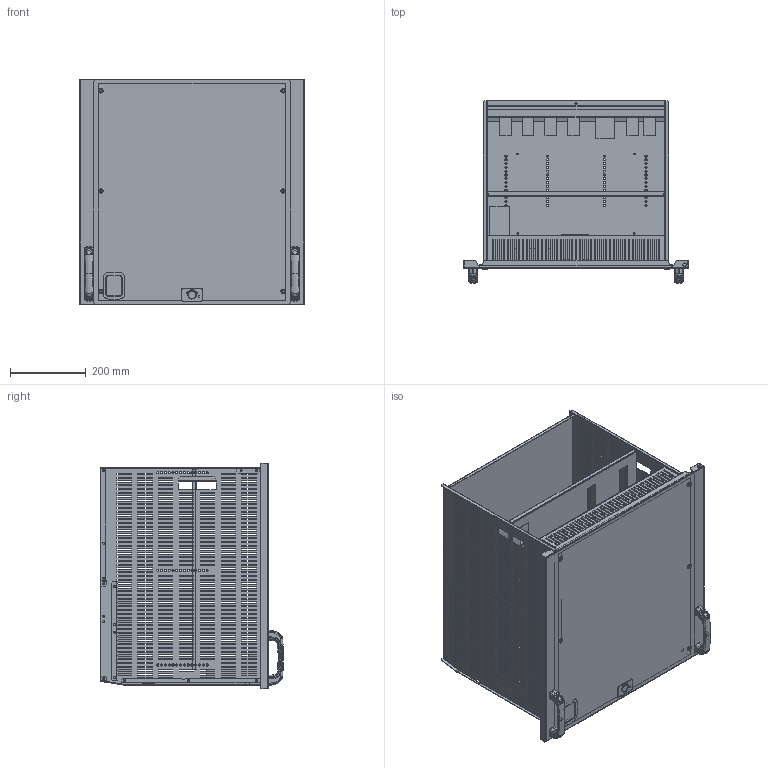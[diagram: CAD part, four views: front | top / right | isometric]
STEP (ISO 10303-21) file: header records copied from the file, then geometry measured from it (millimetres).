
FILE_DESCRIPTION(('CAx-IF Rec.Pracs.---Model Styling and Organization---1.2---2011-12-15','CAx-IF Rec.Pracs.---Geometric and Assembly Validation Properties---4.1---2014-06-16','CAx-IF Rec.Pracs.---PMI Polyline Presentation---2.0---2013-05-24'),'2;1');
FILE_NAME('12М1.stp','2021-05-05T11:50:38+03:00',(''),(''),'STEP Interface 4.4 by CT CoreTechnologie','3D_Evolution4.4 by CT CoreTechnologie','');
FILE_SCHEMA(('AUTOMOTIVE_DESIGN { 1 0 10303 214 1 1 1 1 }'));
Length unit declared in the file: millimetre
Products named in the file (33): 12Ì1; ñèëîâûå áîëüøèå òîêè; M6x20 GOST 17475-80 (DIN 965)_stright; 4.444.002(1); PR.DT477.120.01; PR.DT477.120.02-poprawa; RB.1499.00.00.0 ÑÁ_-05; RB.1499.00.01.0_-05; M6 art.MGR-MKO-0625_2¬¬; 4.444.002(2); RB.1505.00.00.0 ÑÁ_3; RB.1505.00.01.0_4; RB.1501.00.00.0 ÑÁ_-05; RB.1501.00.01.0_-05; RB.1511.00.00.0_-05; M6x12 (A1100001)_stright; R5M2W3M1BR22_R5MW31BR22; RB.1506.00.00.0_-07; RB.1507.00.00.0_-04; RB.1356.00.00.0; áëîêèðîâêà ìåõàíèçì; RB.1166.00.00.0 ÑÁ_-05; RB.1166.00.01.0_-05; RB.1166.00.02.0_¢ à 1; RB.1166.00.03.0_-00; PF 7x14 RAMmcc 2.0_121; AC00C061_AC00C061; Ì6õ12-A5100231_straight; PF 3.5x7 RAMmcc 2.0_00; ìåõàíèçì; 6-GOST 11371-78 (DIN 125) PA 6.6_6-GOST 11371-78 (DIN 125) PA 6.6; êíîïêà; ñèãíàëüíûå
Assembly tree (61 placements, depth 3):
  12Ì1
    ñèëîâûå áîëüøèå òîêè  x8
    M6x20 GOST 17475-80 (DIN 965)_stright  x4
    4.444.002(1)
      PR.DT477.120.01
      PR.DT477.120.02-poprawa  x2
    RB.1499.00.00.0 ÑÁ_-05
      RB.1499.00.01.0_-05
      M6 art.MGR-MKO-0625_2¬¬  x3
    4.444.002(2)
      PR.DT477.120.02-poprawa  x2
      PR.DT477.120.01
    RB.1505.00.00.0 ÑÁ_3
      RB.1505.00.01.0_4
    RB.1501.00.00.0 ÑÁ_-05
      RB.1501.00.01.0_-05
      M6 art.MGR-MKO-0625_2¬¬  x3
    RB.1511.00.00.0_-05
    M6x12 (A1100001)_stright  x6
    R5M2W3M1BR22_R5MW31BR22
      RB.1506.00.00.0_-07
    RB.1507.00.00.0_-04
    RB.1356.00.00.0
    áëîêèðîâêà ìåõàíèçì
    RB.1166.00.00.0 ÑÁ_-05
      RB.1166.00.01.0_-05
      RB.1166.00.02.0_¢ à 1
      RB.1166.00.03.0_-00
      PF 7x14 RAMmcc 2.0_121
      AC00C061_AC00C061
      Ì6õ12-A5100231_straight
      PF 3.5x7 RAMmcc 2.0_00
    ìåõàíèçì
    6-GOST 11371-78 (DIN 125) PA 6.6_6-GOST 11371-78 (DIN 125) PA 6.6  x6
    êíîïêà
    ñèãíàëüíûå
Bounding box: 594 x 483.5 x 597.19 mm (x, y, z)
Surface area: 3790413.3 mm2 (no closed solid volume)
Topology: 0 solids, 68 shells, 6073 faces, 17069 edges, 11056 vertices
Faces by surface type: plane 4116, cylinder 1004, bspline 953
Entity records: 222132 total; most frequent: CARTESIAN_POINT 42814, ORIENTED_EDGE 29086, DIRECTION 26027, EDGE_CURVE 14544, VECTOR 12045, LINE 12045, VERTEX_POINT 9560, EDGE_LOOP 7177
